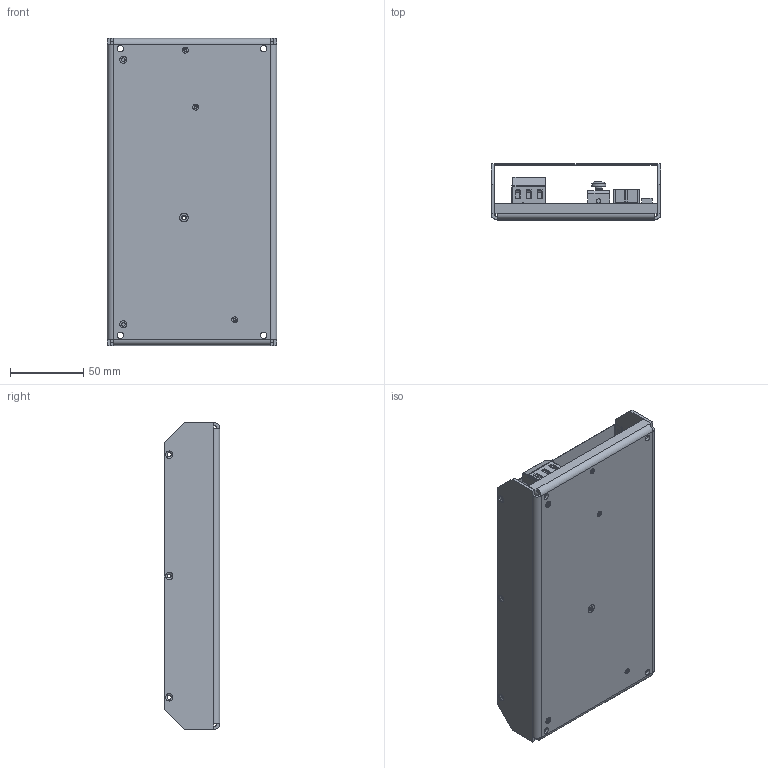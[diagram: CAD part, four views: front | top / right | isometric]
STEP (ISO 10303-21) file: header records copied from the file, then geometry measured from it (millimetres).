
FILE_DESCRIPTION(('STEP AP214'), '1');
FILE_NAME('JETBA1000-S_screw_termination', '', ('UNSPECIFIED'), ('UNSPECIFIED'), 'ASCON STEP Converter 1.3', 'ASCON Math Kernel', '');
FILE_SCHEMA(('AUTOMOTIVE_DESIGN { 1 0 10303 214 3 1 1}'));
Length unit declared in the file: millimetre
Products named in the file (1): JETBA1000-S_screw_termination
Bounding box: 116 x 38.15 x 210 mm (x, y, z)
Volume: 100423.8 mm3; surface area: 172880.5 mm2
Topology: 2 solids, 2 shells, 1686 faces, 4337 edges, 2778 vertices
Faces by surface type: plane 904, cylinder 614, cone 123, torus 33, sphere 10, bspline 2
Full cylindrical faces by diameter (mm): 0.2 x4, 0.5 x16, 1 x2, 1.5 x3, 1.567 x3, 2 x42, 2.459 x1, 2.5 x2, 2.7 x6, 2.835 x3, 3 x8, 3.15 x6, 3.18 x3, 3.8 x1, 3.88 x2, 3.96 x3, 4 x4, 4.093 x4, 4.2 x9, 4.22 x2, 4.3 x4, 4.4 x4, 4.8 x2, 5 x12, 6.3 x2, 6.35 x8, 8 x2, 9.5 x2
Entity records: 79448 total; most frequent: CARTESIAN_POINT 24944, DIRECTION 8577, ORIENTED_EDGE 8078, EDGE_CURVE 4039, AXIS2_PLACEMENT_3D 3058, VERTEX_POINT 2776, LINE 2461, VECTOR 2461
